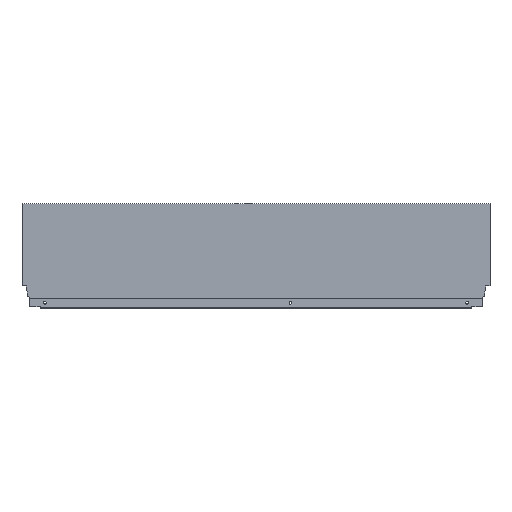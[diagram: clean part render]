
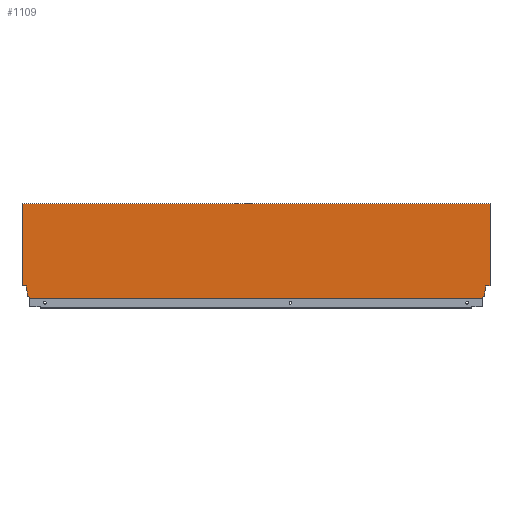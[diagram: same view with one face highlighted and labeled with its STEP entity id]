
A CAD part, top view. The second image highlights one B-rep face of the part: STEP entity #1109.
In plain terms, the highlighted planar face has unit normal (0, 0, 1).
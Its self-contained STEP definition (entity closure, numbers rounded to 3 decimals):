
#116 = AXIS2_PLACEMENT_3D ( 'NONE', #277, #242, #243 ) ;
#154 = CARTESIAN_POINT ( 'NONE',  ( -803.996, 1.146, 7.5 ) ) ;
#185 = CARTESIAN_POINT ( 'NONE',  ( -817., 0., 7.5 ) ) ;
#189 = DIRECTION ( 'NONE',  ( 1., 0., 0. ) ) ;
#197 = DIRECTION ( 'NONE',  ( 0., 1., 0. ) ) ;
#200 = CARTESIAN_POINT ( 'NONE',  ( -809.94, 21.2, 7.5 ) ) ;
#201 = DIRECTION ( 'NONE',  ( -0.174, 0.985, 0. ) ) ;
#204 = CARTESIAN_POINT ( 'NONE',  ( -808.1, 2.64, 7.5 ) ) ;
#205 = DIRECTION ( 'NONE',  ( -0.94, 0.342, 0. ) ) ;
#206 = CARTESIAN_POINT ( 'NONE',  ( -822., 21.2, 7.5 ) ) ;
#207 = DIRECTION ( 'NONE',  ( -1., 0., 0. ) ) ;
#208 = CARTESIAN_POINT ( 'NONE',  ( -817., 0., 7.5 ) ) ;
#209 = DIRECTION ( 'NONE',  ( 0., -1., 0. ) ) ;
#210 = CARTESIAN_POINT ( 'NONE',  ( -808.1, 10.765, 7.5 ) ) ;
#211 = DIRECTION ( 'NONE',  ( 0., 1., 0. ) ) ;
#212 = CARTESIAN_POINT ( 'NONE',  ( -8.9, 10.765, 7.5 ) ) ;
#213 = DIRECTION ( 'NONE',  ( 0., -1., 0. ) ) ;
#215 = CARTESIAN_POINT ( 'NONE',  ( -13.004, 1.146, 7.5 ) ) ;
#242 = DIRECTION ( 'NONE',  ( 0., 0., 1. ) ) ;
#243 = DIRECTION ( 'NONE',  ( 1., 0., 0. ) ) ;
#277 = CARTESIAN_POINT ( 'NONE',  ( -817., 0., 7.5 ) ) ;
#281 = PLANE ( 'NONE',  #116 ) ;
#315 = CARTESIAN_POINT ( 'NONE',  ( -7.06, 21.2, 7.5 ) ) ;
#316 = CARTESIAN_POINT ( 'NONE',  ( -803.996, 1.146, 7.5 ) ) ;
#325 = CARTESIAN_POINT ( 'NONE',  ( 0., 164.7, 7.5 ) ) ;
#328 = CARTESIAN_POINT ( 'NONE',  ( -817., 164.7, 7.5 ) ) ;
#331 = CARTESIAN_POINT ( 'NONE',  ( 0., 21.2, 7.5 ) ) ;
#332 = CARTESIAN_POINT ( 'NONE',  ( -803.996, 0., 7.5 ) ) ;
#333 = CARTESIAN_POINT ( 'NONE',  ( -8.9, 10.765, 7.5 ) ) ;
#334 = CARTESIAN_POINT ( 'NONE',  ( -808.1, 2.64, 7.5 ) ) ;
#336 = CARTESIAN_POINT ( 'NONE',  ( -13.004, 0., 7.5 ) ) ;
#354 = CARTESIAN_POINT ( 'NONE',  ( -808.1, 10.765, 7.5 ) ) ;
#363 = CARTESIAN_POINT ( 'NONE',  ( -8.9, 2.64, 7.5 ) ) ;
#383 = DIRECTION ( 'NONE',  ( 0., -1., 0. ) ) ;
#384 = CARTESIAN_POINT ( 'NONE',  ( 0., 0., 7.5 ) ) ;
#386 = DIRECTION ( 'NONE',  ( 1., 0., 0. ) ) ;
#387 = CARTESIAN_POINT ( 'NONE',  ( -817., 164.7, 7.5 ) ) ;
#393 = CARTESIAN_POINT ( 'NONE',  ( -13.004, 1.146, 7.5 ) ) ;
#413 = CARTESIAN_POINT ( 'NONE',  ( -817., 21.2, 7.5 ) ) ;
#417 = CARTESIAN_POINT ( 'NONE',  ( -809.94, 21.2, 7.5 ) ) ;
#419 = DIRECTION ( 'NONE',  ( -1., 0., 0. ) ) ;
#420 = CARTESIAN_POINT ( 'NONE',  ( 0., 21.2, 7.5 ) ) ;
#421 = DIRECTION ( 'NONE',  ( -0.174, -0.985, 0. ) ) ;
#422 = CARTESIAN_POINT ( 'NONE',  ( -7.06, 21.2, 7.5 ) ) ;
#423 = DIRECTION ( 'NONE',  ( -0.94, -0.342, 0. ) ) ;
#424 = CARTESIAN_POINT ( 'NONE',  ( -8.9, 2.64, 7.5 ) ) ;
#425 = DIRECTION ( 'NONE',  ( 0., -1., 0. ) ) ;
#492 = FACE_OUTER_BOUND ( 'NONE', #1050, .T. ) ;
#535 = LINE ( 'NONE', #185, #541 ) ;
#541 = VECTOR ( 'NONE', #189, 1000. ) ;
#543 = LINE ( 'NONE', #154, #545 ) ;
#545 = VECTOR ( 'NONE', #197, 1000. ) ;
#547 = LINE ( 'NONE', #200, #548 ) ;
#548 = VECTOR ( 'NONE', #201, 1000. ) ;
#551 = LINE ( 'NONE', #204, #552 ) ;
#552 = VECTOR ( 'NONE', #205, 1000. ) ;
#553 = LINE ( 'NONE', #206, #554 ) ;
#554 = VECTOR ( 'NONE', #207, 1000. ) ;
#555 = LINE ( 'NONE', #208, #556 ) ;
#556 = VECTOR ( 'NONE', #209, 1000. ) ;
#557 = LINE ( 'NONE', #210, #558 ) ;
#558 = VECTOR ( 'NONE', #211, 1000. ) ;
#559 = LINE ( 'NONE', #212, #560 ) ;
#560 = VECTOR ( 'NONE', #213, 1000. ) ;
#561 = LINE ( 'NONE', #215, #562 ) ;
#562 = VECTOR ( 'NONE', #425, 1000. ) ;
#563 = LINE ( 'NONE', #422, #564 ) ;
#564 = VECTOR ( 'NONE', #421, 1000. ) ;
#565 = LINE ( 'NONE', #424, #566 ) ;
#566 = VECTOR ( 'NONE', #423, 1000. ) ;
#567 = LINE ( 'NONE', #420, #568 ) ;
#568 = VECTOR ( 'NONE', #419, 1000. ) ;
#569 = LINE ( 'NONE', #384, #570 ) ;
#570 = VECTOR ( 'NONE', #383, 1000. ) ;
#571 = LINE ( 'NONE', #387, #572 ) ;
#572 = VECTOR ( 'NONE', #386, 1000. ) ;
#959 = ORIENTED_EDGE ( 'NONE', *, *, #1158, .F. ) ;
#960 = ORIENTED_EDGE ( 'NONE', *, *, #1157, .F. ) ;
#961 = ORIENTED_EDGE ( 'NONE', *, *, #1156, .F. ) ;
#962 = ORIENTED_EDGE ( 'NONE', *, *, #1154, .F. ) ;
#963 = ORIENTED_EDGE ( 'NONE', *, *, #1152, .F. ) ;
#964 = ORIENTED_EDGE ( 'NONE', *, *, #1155, .F. ) ;
#965 = ORIENTED_EDGE ( 'NONE', *, *, #1153, .F. ) ;
#966 = ORIENTED_EDGE ( 'NONE', *, *, #1144, .T. ) ;
#967 = ORIENTED_EDGE ( 'NONE', *, *, #1145, .F. ) ;
#968 = ORIENTED_EDGE ( 'NONE', *, *, #1148, .F. ) ;
#969 = ORIENTED_EDGE ( 'NONE', *, *, #1151, .F. ) ;
#970 = ORIENTED_EDGE ( 'NONE', *, *, #1146, .F. ) ;
#971 = ORIENTED_EDGE ( 'NONE', *, *, #1149, .F. ) ;
#972 = ORIENTED_EDGE ( 'NONE', *, *, #1150, .T. ) ;
#1050 = EDGE_LOOP ( 'NONE', ( #972, #971, #970, #969, #968, #967, #966, #965, #964, #963, #962, #961, #960, #959 ) ) ;
#1109 = ADVANCED_FACE ( 'NONE', ( #492 ), #281, .T. ) ;
#1144 = EDGE_CURVE ( 'NONE', #1473, #1477, #535, .T. ) ;
#1145 = EDGE_CURVE ( 'NONE', #1473, #1503, #543, .T. ) ;
#1146 = EDGE_CURVE ( 'NONE', #1371, #1244, #547, .T. ) ;
#1148 = EDGE_CURVE ( 'NONE', #1503, #1475, #551, .T. ) ;
#1149 = EDGE_CURVE ( 'NONE', #1244, #1227, #553, .T. ) ;
#1150 = EDGE_CURVE ( 'NONE', #1501, #1227, #555, .T. ) ;
#1151 = EDGE_CURVE ( 'NONE', #1475, #1371, #557, .T. ) ;
#1152 = EDGE_CURVE ( 'NONE', #1474, #1316, #559, .T. ) ;
#1153 = EDGE_CURVE ( 'NONE', #1223, #1477, #561, .T. ) ;
#1154 = EDGE_CURVE ( 'NONE', #1504, #1474, #563, .T. ) ;
#1155 = EDGE_CURVE ( 'NONE', #1316, #1223, #565, .T. ) ;
#1156 = EDGE_CURVE ( 'NONE', #1472, #1504, #567, .T. ) ;
#1157 = EDGE_CURVE ( 'NONE', #1514, #1472, #569, .T. ) ;
#1158 = EDGE_CURVE ( 'NONE', #1501, #1514, #571, .T. ) ;
#1223 = VERTEX_POINT ( 'NONE', #393 ) ;
#1227 = VERTEX_POINT ( 'NONE', #413 ) ;
#1244 = VERTEX_POINT ( 'NONE', #417 ) ;
#1316 = VERTEX_POINT ( 'NONE', #363 ) ;
#1371 = VERTEX_POINT ( 'NONE', #354 ) ;
#1472 = VERTEX_POINT ( 'NONE', #331 ) ;
#1473 = VERTEX_POINT ( 'NONE', #332 ) ;
#1474 = VERTEX_POINT ( 'NONE', #333 ) ;
#1475 = VERTEX_POINT ( 'NONE', #334 ) ;
#1477 = VERTEX_POINT ( 'NONE', #336 ) ;
#1501 = VERTEX_POINT ( 'NONE', #328 ) ;
#1503 = VERTEX_POINT ( 'NONE', #316 ) ;
#1504 = VERTEX_POINT ( 'NONE', #315 ) ;
#1514 = VERTEX_POINT ( 'NONE', #325 ) ;
